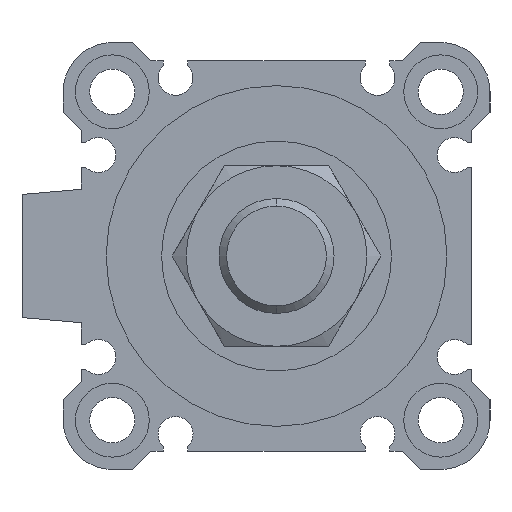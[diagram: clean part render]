
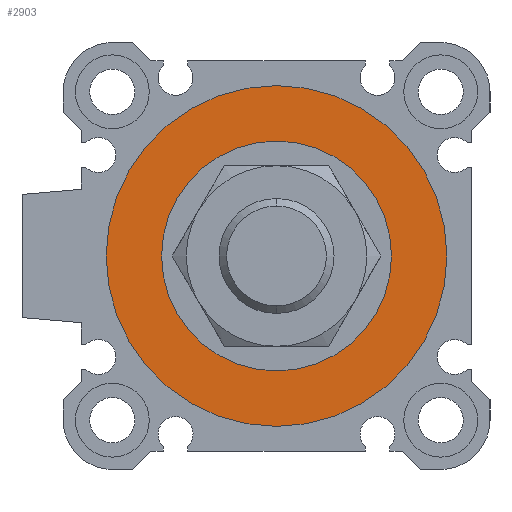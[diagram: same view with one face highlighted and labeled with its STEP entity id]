
A CAD part, left-side view. The second image highlights one B-rep face of the part: STEP entity #2903.
In plain terms, the highlighted planar face has unit normal (-1, 0, 0).
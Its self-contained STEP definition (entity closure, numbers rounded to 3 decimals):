
#134 = FACE_OUTER_BOUND ( 'NONE', #6701, .T. ) ;
#227 = DIRECTION ( 'NONE',  ( 1., 0., 0. ) ) ;
#538 = CIRCLE ( 'NONE', #5178, 14. ) ;
#630 = DIRECTION ( 'NONE',  ( 1., 0., 0. ) ) ;
#661 = DIRECTION ( 'NONE',  ( 0., 1., 0. ) ) ;
#695 = FACE_BOUND ( 'NONE', #1806, .T. ) ;
#880 = CIRCLE ( 'NONE', #5420, 14. ) ;
#916 = VERTEX_POINT ( 'NONE', #4275 ) ;
#1036 = EDGE_CURVE ( 'NONE', #2083, #3071, #2613, .T. ) ;
#1132 = EDGE_CURVE ( 'NONE', #1554, #916, #538, .T. ) ;
#1201 = DIRECTION ( 'NONE',  ( 0., 0., -1. ) ) ;
#1213 = CARTESIAN_POINT ( 'NONE',  ( 3.3, 0., 0. ) ) ;
#1554 = VERTEX_POINT ( 'NONE', #5899 ) ;
#1735 = CARTESIAN_POINT ( 'NONE',  ( 3.3, 0., 0. ) ) ;
#1806 = EDGE_LOOP ( 'NONE', ( #2960, #4893 ) ) ;
#2083 = VERTEX_POINT ( 'NONE', #3845 ) ;
#2296 = CARTESIAN_POINT ( 'NONE',  ( 3.3, 0., 0. ) ) ;
#2613 = CIRCLE ( 'NONE', #3750, 20.75 ) ;
#2695 = DIRECTION ( 'NONE',  ( 0., 0., -1. ) ) ;
#2903 = ADVANCED_FACE ( 'NONE', ( #134, #695 ), #2928, .F. ) ;
#2926 = DIRECTION ( 'NONE',  ( 1., 0., 0. ) ) ;
#2928 = PLANE ( 'NONE',  #5509 ) ;
#2960 = ORIENTED_EDGE ( 'NONE', *, *, #1132, .T. ) ;
#3071 = VERTEX_POINT ( 'NONE', #6927 ) ;
#3221 = DIRECTION ( 'NONE',  ( 1., 0., 0. ) ) ;
#3320 = DIRECTION ( 'NONE',  ( 0., 0., -1. ) ) ;
#3357 = CARTESIAN_POINT ( 'NONE',  ( 3.3, 0., 0. ) ) ;
#3484 = CIRCLE ( 'NONE', #6434, 20.75 ) ;
#3659 = ORIENTED_EDGE ( 'NONE', *, *, #1036, .F. ) ;
#3750 = AXIS2_PLACEMENT_3D ( 'NONE', #3856, #630, #3320 ) ;
#3845 = CARTESIAN_POINT ( 'NONE',  ( 3.3, 0., 20.75 ) ) ;
#3856 = CARTESIAN_POINT ( 'NONE',  ( 3.3, 0., 0. ) ) ;
#4275 = CARTESIAN_POINT ( 'NONE',  ( 3.3, 0., -14. ) ) ;
#4313 = EDGE_CURVE ( 'NONE', #916, #1554, #880, .T. ) ;
#4743 = EDGE_CURVE ( 'NONE', #3071, #2083, #3484, .T. ) ;
#4886 = DIRECTION ( 'NONE',  ( 1., 0., 0. ) ) ;
#4893 = ORIENTED_EDGE ( 'NONE', *, *, #4313, .T. ) ;
#5178 = AXIS2_PLACEMENT_3D ( 'NONE', #3357, #4886, #1201 ) ;
#5420 = AXIS2_PLACEMENT_3D ( 'NONE', #1213, #3221, #2695 ) ;
#5509 = AXIS2_PLACEMENT_3D ( 'NONE', #2296, #227, #661 ) ;
#5899 = CARTESIAN_POINT ( 'NONE',  ( 3.3, 0., 14. ) ) ;
#6274 = ORIENTED_EDGE ( 'NONE', *, *, #4743, .F. ) ;
#6434 = AXIS2_PLACEMENT_3D ( 'NONE', #1735, #2926, #6449 ) ;
#6449 = DIRECTION ( 'NONE',  ( 0., 0., -1. ) ) ;
#6701 = EDGE_LOOP ( 'NONE', ( #3659, #6274 ) ) ;
#6927 = CARTESIAN_POINT ( 'NONE',  ( 3.3, 0., -20.75 ) ) ;
